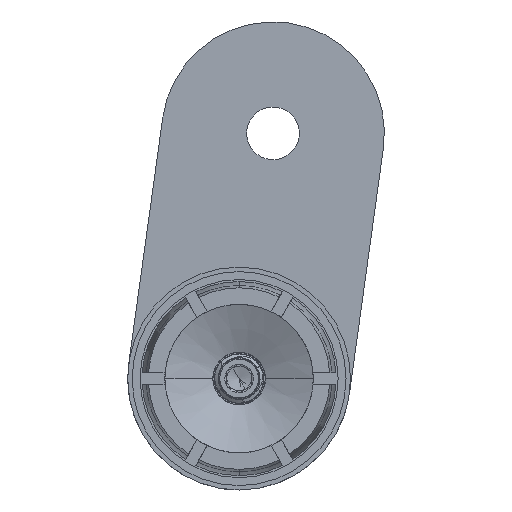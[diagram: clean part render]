
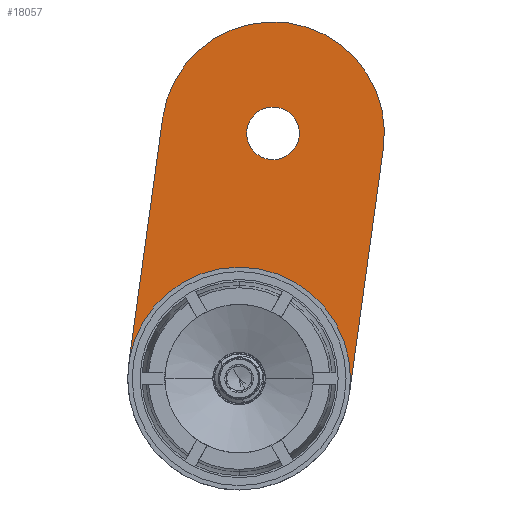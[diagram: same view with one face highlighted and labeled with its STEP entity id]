
A CAD part, left-side view. The second image highlights one B-rep face of the part: STEP entity #18057.
In plain terms, the highlighted planar face has unit normal (-1, 0, 0) as drawn and (0, 0, 1) by its records, which use the part's own axes.
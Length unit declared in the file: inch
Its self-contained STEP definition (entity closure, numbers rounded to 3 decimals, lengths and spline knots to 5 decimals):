
#18 = VERTEX_POINT ( 'NONE', #3982 ) ;
#291 = CARTESIAN_POINT ( 'NONE',  ( 0.492, 0., 0.18 ) ) ;
#391 = CIRCLE ( 'NONE', #3064, 0.133 ) ;
#393 = DIRECTION ( 'NONE',  ( 0., 0., 1. ) ) ;
#1563 = LINE ( 'NONE', #25102, #12005 ) ;
#1828 = ORIENTED_EDGE ( 'NONE', *, *, #4684, .F. ) ;
#1849 = DIRECTION ( 'NONE',  ( 0., 0., 1. ) ) ;
#1985 = FACE_BOUND ( 'NONE', #23128, .T. ) ;
#1994 = ORIENTED_EDGE ( 'NONE', *, *, #5937, .T. ) ;
#2067 = EDGE_CURVE ( 'NONE', #6012, #14617, #391, .T. ) ;
#2677 = CARTESIAN_POINT ( 'NONE',  ( -0.625, -0.5625, 0.18 ) ) ;
#3064 = AXIS2_PLACEMENT_3D ( 'NONE', #10684, #24989, #12747 ) ;
#3146 = AXIS2_PLACEMENT_3D ( 'NONE', #10547, #24854, #12620 ) ;
#3982 = CARTESIAN_POINT ( 'NONE',  ( -0.625, 0.5625, 0.18 ) ) ;
#4218 = DIRECTION ( 'NONE',  ( 0., 0., 1. ) ) ;
#4455 = VERTEX_POINT ( 'NONE', #24304 ) ;
#4487 = DIRECTION ( 'NONE',  ( 1., 0., 0. ) ) ;
#4618 = CARTESIAN_POINT ( 'NONE',  ( 0.625, 0., 0.18 ) ) ;
#4684 = EDGE_CURVE ( 'NONE', #26493, #4455, #18061, .T. ) ;
#4699 = EDGE_CURVE ( 'NONE', #8194, #9680, #1563, .T. ) ;
#5347 = ORIENTED_EDGE ( 'NONE', *, *, #17355, .T. ) ;
#5937 = EDGE_CURVE ( 'NONE', #18, #11960, #12606, .T. ) ;
#6012 = VERTEX_POINT ( 'NONE', #22781 ) ;
#6671 = AXIS2_PLACEMENT_3D ( 'NONE', #22737, #10504, #24807 ) ;
#6736 = DIRECTION ( 'NONE',  ( 1., 0., 0. ) ) ;
#8165 = PLANE ( 'NONE',  #8286 ) ;
#8194 = VERTEX_POINT ( 'NONE', #2677 ) ;
#8286 = AXIS2_PLACEMENT_3D ( 'NONE', #18387, #1849, #22516 ) ;
#8343 = ORIENTED_EDGE ( 'NONE', *, *, #24882, .F. ) ;
#9598 = AXIS2_PLACEMENT_3D ( 'NONE', #23064, #10822, #25124 ) ;
#9680 = VERTEX_POINT ( 'NONE', #16481 ) ;
#10504 = DIRECTION ( 'NONE',  ( 0., 0., 1. ) ) ;
#10547 = CARTESIAN_POINT ( 'NONE',  ( 0.625, 0., 0.18 ) ) ;
#10684 = CARTESIAN_POINT ( 'NONE',  ( 0.625, 0., 0.18 ) ) ;
#10746 = ORIENTED_EDGE ( 'NONE', *, *, #25440, .T. ) ;
#10822 = DIRECTION ( 'NONE',  ( 0., 0., 1. ) ) ;
#11960 = VERTEX_POINT ( 'NONE', #17019 ) ;
#12005 = VECTOR ( 'NONE', #4487, 39.37008 ) ;
#12606 = CIRCLE ( 'NONE', #21139, 0.5625 ) ;
#12620 = DIRECTION ( 'NONE',  ( 1., 0., 0. ) ) ;
#12747 = DIRECTION ( 'NONE',  ( 1., 0., 0. ) ) ;
#12858 = CARTESIAN_POINT ( 'NONE',  ( -0.625, 0., 0.18 ) ) ;
#13775 = ORIENTED_EDGE ( 'NONE', *, *, #26566, .F. ) ;
#14112 = CARTESIAN_POINT ( 'NONE',  ( 0.625, 0.5625, 0.18 ) ) ;
#14331 = FACE_BOUND ( 'NONE', #23435, .T. ) ;
#14436 = CIRCLE ( 'NONE', #6671, 0.5625 ) ;
#14492 = EDGE_LOOP ( 'NONE', ( #1994, #18332, #21943, #5347, #10746 ) ) ;
#14617 = VERTEX_POINT ( 'NONE', #291 ) ;
#14742 = CIRCLE ( 'NONE', #19074, 0.5625 ) ;
#14892 = DIRECTION ( 'NONE',  ( 1., 0., 0. ) ) ;
#16481 = CARTESIAN_POINT ( 'NONE',  ( 0.625, -0.5625, 0.18 ) ) ;
#16487 = AXIS2_PLACEMENT_3D ( 'NONE', #12858, #393, #14892 ) ;
#16607 = CARTESIAN_POINT ( 'NONE',  ( -0.625, 0., 0.18 ) ) ;
#16888 = VERTEX_POINT ( 'NONE', #17643 ) ;
#17019 = CARTESIAN_POINT ( 'NONE',  ( -1.1875, 0., 0.18 ) ) ;
#17161 = EDGE_CURVE ( 'NONE', #11960, #8194, #14436, .T. ) ;
#17355 = EDGE_CURVE ( 'NONE', #9680, #16888, #14742, .T. ) ;
#17643 = CARTESIAN_POINT ( 'NONE',  ( 0.625, 0.5625, 0.18 ) ) ;
#17848 = LINE ( 'NONE', #14112, #23289 ) ;
#17878 = CIRCLE ( 'NONE', #9598, 0.133 ) ;
#18057 = ADVANCED_FACE ( 'NONE', ( #14331, #1985, #18476 ), #8165, .T. ) ;
#18061 = CIRCLE ( 'NONE', #16487, 0.133 ) ;
#18332 = ORIENTED_EDGE ( 'NONE', *, *, #17161, .T. ) ;
#18387 = CARTESIAN_POINT ( 'NONE',  ( -0.625, 0., 0.18 ) ) ;
#18476 = FACE_OUTER_BOUND ( 'NONE', #14492, .T. ) ;
#18486 = CARTESIAN_POINT ( 'NONE',  ( -0.492, 0., 0.18 ) ) ;
#18665 = DIRECTION ( 'NONE',  ( 1., 0., 0. ) ) ;
#18947 = ORIENTED_EDGE ( 'NONE', *, *, #2067, .F. ) ;
#19049 = DIRECTION ( 'NONE',  ( 0., 0., 1. ) ) ;
#19074 = AXIS2_PLACEMENT_3D ( 'NONE', #4618, #19049, #6736 ) ;
#20173 = DIRECTION ( 'NONE',  ( -1., 0., 0. ) ) ;
#21139 = AXIS2_PLACEMENT_3D ( 'NONE', #16607, #4218, #18665 ) ;
#21943 = ORIENTED_EDGE ( 'NONE', *, *, #4699, .T. ) ;
#22516 = DIRECTION ( 'NONE',  ( 1., 0., 0. ) ) ;
#22737 = CARTESIAN_POINT ( 'NONE',  ( -0.625, 0., 0.18 ) ) ;
#22781 = CARTESIAN_POINT ( 'NONE',  ( 0.758, 0., 0.18 ) ) ;
#23064 = CARTESIAN_POINT ( 'NONE',  ( -0.625, 0., 0.18 ) ) ;
#23128 = EDGE_LOOP ( 'NONE', ( #1828, #8343 ) ) ;
#23289 = VECTOR ( 'NONE', #20173, 39.37008 ) ;
#23435 = EDGE_LOOP ( 'NONE', ( #18947, #13775 ) ) ;
#24203 = CIRCLE ( 'NONE', #3146, 0.133 ) ;
#24304 = CARTESIAN_POINT ( 'NONE',  ( -0.758, 0., 0.18 ) ) ;
#24807 = DIRECTION ( 'NONE',  ( 1., 0., 0. ) ) ;
#24854 = DIRECTION ( 'NONE',  ( 0., 0., 1. ) ) ;
#24882 = EDGE_CURVE ( 'NONE', #4455, #26493, #17878, .T. ) ;
#24989 = DIRECTION ( 'NONE',  ( 0., 0., 1. ) ) ;
#25102 = CARTESIAN_POINT ( 'NONE',  ( -0.625, -0.5625, 0.18 ) ) ;
#25124 = DIRECTION ( 'NONE',  ( 1., 0., 0. ) ) ;
#25440 = EDGE_CURVE ( 'NONE', #16888, #18, #17848, .T. ) ;
#26493 = VERTEX_POINT ( 'NONE', #18486 ) ;
#26566 = EDGE_CURVE ( 'NONE', #14617, #6012, #24203, .T. ) ;
